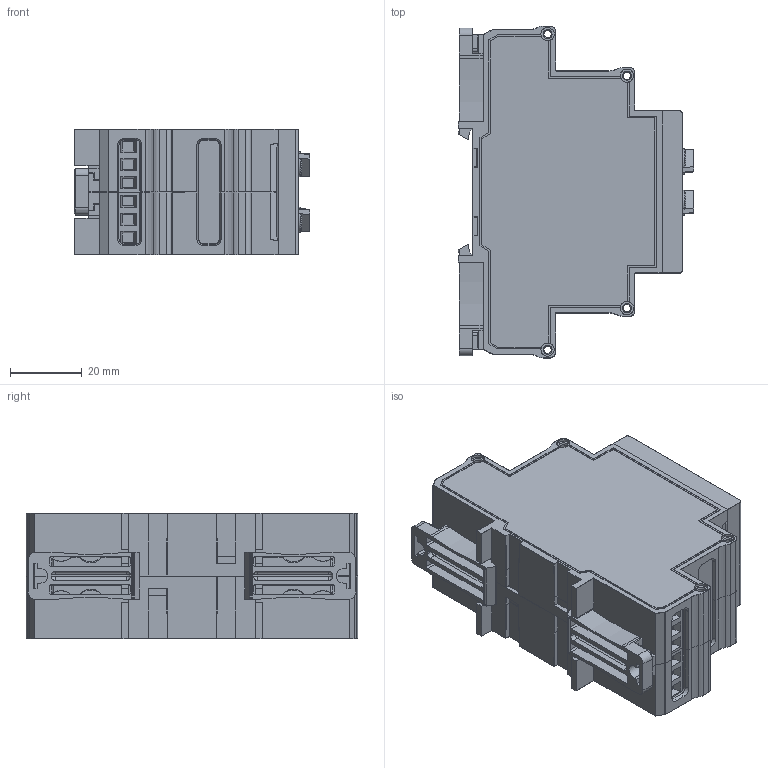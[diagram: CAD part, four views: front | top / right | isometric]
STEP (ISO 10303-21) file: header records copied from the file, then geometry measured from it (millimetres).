
FILE_DESCRIPTION(('STEP AP242'), '1');
FILE_NAME('ﾑ碚濱ﾐﾇﾍ-1ﾌ', '', ('UNSPECIFIED'), ('UNSPECIFIED'), 'C3D Converter', 'C3D Toolkit', '');
FILE_SCHEMA(('AP242_MANAGED_MODEL_BASED_3D_ENGINEERING_MIM_LF { 1 0 10303 442 1 1 4 }'));
Length unit declared in the file: millimetre
Products named in the file (15): Case_UC1-2sR-2024_SimpleModel_17mm; Case_UC1-2sR-2025_Face_FR.FP.0000078; Case13-18-23mm_2step_Lock_v01a_Build20140909_1552; Case_UC1-2sR-2024_Plug_35mm; DG128-5.08_Configurable_5.08x3; R-knob_2017_Hex2mm__Џｮ гｬｮｫзｭЁо
Assembly tree (23 placements, depth 2):
  (unnamed)
    Case_UC1-2sR-2024_SimpleModel_17mm  x2
    Case_UC1-2sR-2025_Face_FR.FP.0000078
    Case13-18-23mm_2step_Lock_v01a_Build20140909_1552  x2
    Case_UC1-2sR-2024_Plug_35mm  x2
    DG128-5.08_Configurable_5.08x3  x4
    R-knob_2017_Hex2mm__Џｮ гｬｮｫзｭЁо  x2
    (unnamed)
    (unnamed)  x2
    (unnamed)  x2
    (unnamed)
    (unnamed)
    (unnamed)
    (unnamed)
    (unnamed)
Bounding box: 65.63 x 92.4 x 35 mm (x, y, z)
Volume: 37349.6 mm3; surface area: 53622.2 mm2
Topology: 50 solids, 50 shells, 4823 faces, 13240 edges, 8532 vertices
Faces by surface type: plane 3426, cylinder 550, extrusion 539, torus 150, cone 74, sphere 48, bspline 36
Full cylindrical faces by diameter (mm): 1.238 x12, 2.1 x14, 2.2 x6, 3.7 x8, 3.9 x12, 4.5 x2, 5.2 x2
Entity records: 141596 total; most frequent: CARTESIAN_POINT 26325, ORIENTED_EDGE 19274, DIRECTION 15482, EDGE_CURVE 9637, VECTOR 8330, LINE 7791, VERTEX_POINT 6331, AXIS2_PLACEMENT_3D 3576
